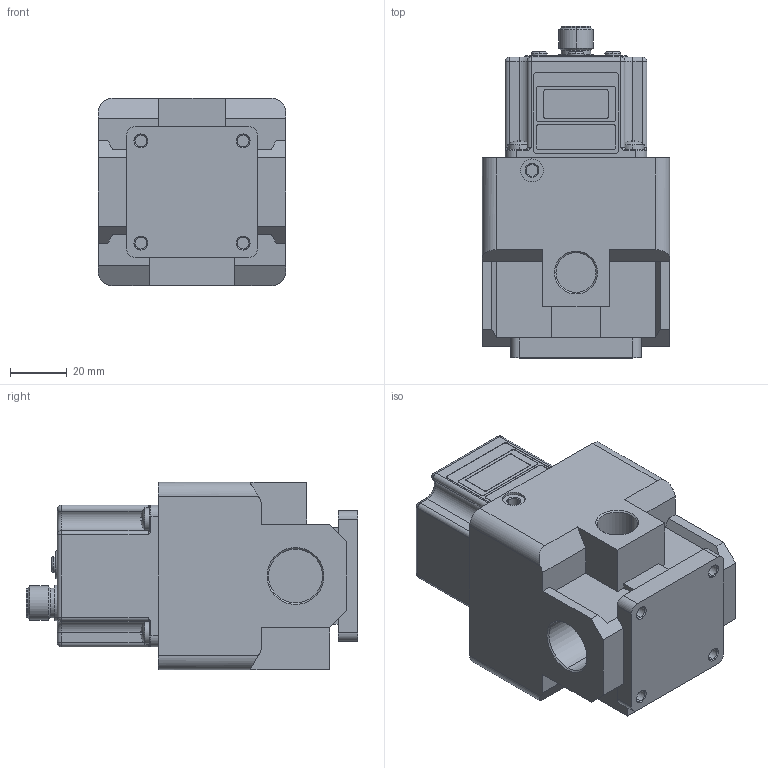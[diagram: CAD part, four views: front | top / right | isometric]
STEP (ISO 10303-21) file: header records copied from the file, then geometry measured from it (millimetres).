
FILE_DESCRIPTION (( 'STEP AP214' ), '1' );
FILE_NAME ('ITV3050-04F4N3.step.step', '2022-12-07T09:43:24', ( '' ), ( '' ), 'SwSTEP 2.0', 'SolidWorks 2022', '' );
FILE_SCHEMA (( 'AUTOMOTIVE_DESIGN' ));
Length unit declared in the file: millimetre
Products named in the file (3): ITV3050-04F4N3.step_ITV 3000 Port Body_30-4F; ITV3050-04F4N3.step; ITV3050-04F4N3.step_ITV Connector Body
Assembly tree (2 placements, depth 2):
  ITV3050-04F4N3.step
    ITV3050-04F4N3.step_ITV 3000 Port Body_30-4F
    ITV3050-04F4N3.step_ITV Connector Body
Bounding box: 66 x 116.9 x 66 mm (x, y, z)
Volume: 309227.1 mm3; surface area: 44642.9 mm2
Topology: 2 solids, 2 shells, 424 faces, 1066 edges, 656 vertices
Faces by surface type: plane 208, cylinder 126, torus 36, cone 30, bspline 12, sphere 12
Entity records: 13985 total; most frequent: CARTESIAN_POINT 3749, DIRECTION 2160, ORIENTED_EDGE 2084, EDGE_CURVE 1042, AXIS2_PLACEMENT_3D 785, VERTEX_POINT 652, VECTOR 590, LINE 590
